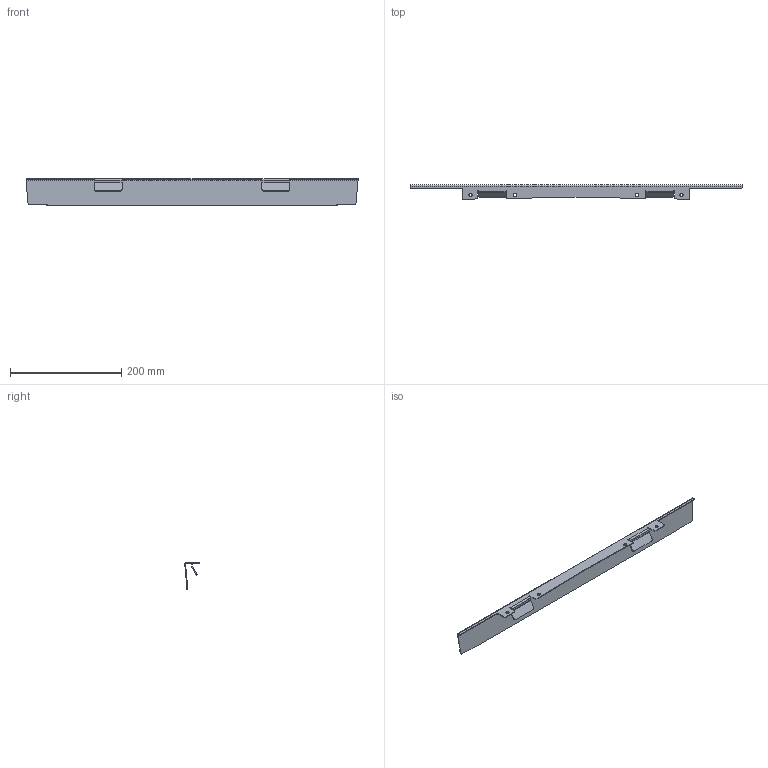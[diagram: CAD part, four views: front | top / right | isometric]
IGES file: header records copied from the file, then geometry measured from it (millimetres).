
Start section: SolidWorks IGES file using analytic representation for surfaces
Global section: file name: G:\3DRAW\EKI\3Dcam\ARCA IEC\Solidpart\RCS_ARCA_8060.IGS; native system: SolidWorks 2014; preprocessor: SolidWorks 2014; author: KennethW; date: 150729.101148; units: millimetre
Bounding box: 598 x 25.98 x 47.85 mm (x, y, z)
Surface area: 80549.1 mm2 (no closed solid volume)
Topology: 0 solids, 0 shells, 95 faces, 1042 edges, 1042 vertices
Faces by surface type: bspline 59, revolution 36
